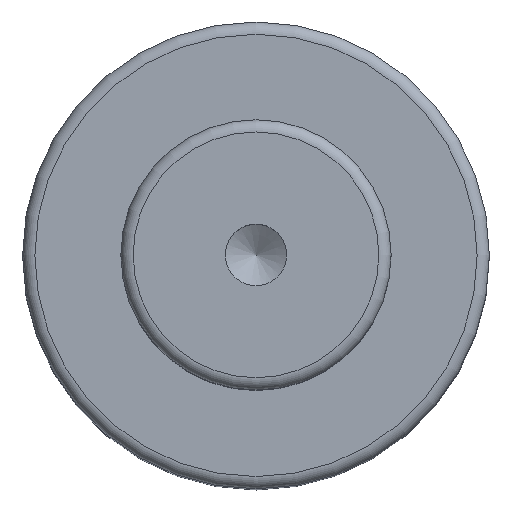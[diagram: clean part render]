
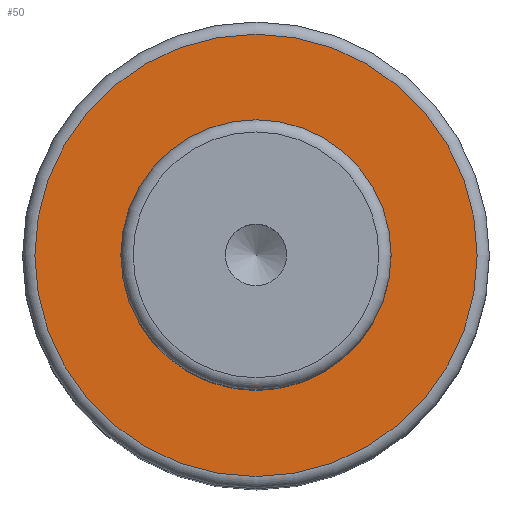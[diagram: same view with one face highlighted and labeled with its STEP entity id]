
A CAD part, top view. The second image highlights one B-rep face of the part: STEP entity #50.
In plain terms, the highlighted planar face has unit normal (0, 0, 1).
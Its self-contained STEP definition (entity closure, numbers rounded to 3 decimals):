
#40=PLANE('',#179);
#50=ADVANCED_FACE('',(#72,#73),#40,.F.);
#72=FACE_BOUND('',#96,.T.);
#73=FACE_BOUND('',#97,.T.);
#96=EDGE_LOOP('',(#118));
#97=EDGE_LOOP('',(#119));
#118=ORIENTED_EDGE('',*,*,#149,.F.);
#119=ORIENTED_EDGE('',*,*,#148,.T.);
#135=VERTEX_POINT('',#256);
#136=VERTEX_POINT('',#259);
#148=EDGE_CURVE('',#135,#135,#159,.T.);
#149=EDGE_CURVE('',#136,#136,#160,.T.);
#159=CIRCLE('',#176,11.);
#160=CIRCLE('',#178,18.);
#176=AXIS2_PLACEMENT_3D('',#255,#213,#214);
#178=AXIS2_PLACEMENT_3D('',#258,#217,#218);
#179=AXIS2_PLACEMENT_3D('',#260,#219,#220);
#213=DIRECTION('',(0.,0.,-1.));
#214=DIRECTION('',(-1.,0.,0.));
#217=DIRECTION('',(0.,0.,-1.));
#218=DIRECTION('',(-1.,0.,0.));
#219=DIRECTION('',(0.,0.,-1.));
#220=DIRECTION('',(-1.,0.,0.));
#255=CARTESIAN_POINT('',(0.,0.,54.));
#256=CARTESIAN_POINT('',(-11.,0.,54.));
#258=CARTESIAN_POINT('',(0.,0.,54.));
#259=CARTESIAN_POINT('',(-18.,0.,54.));
#260=CARTESIAN_POINT('',(11.,0.,54.));
